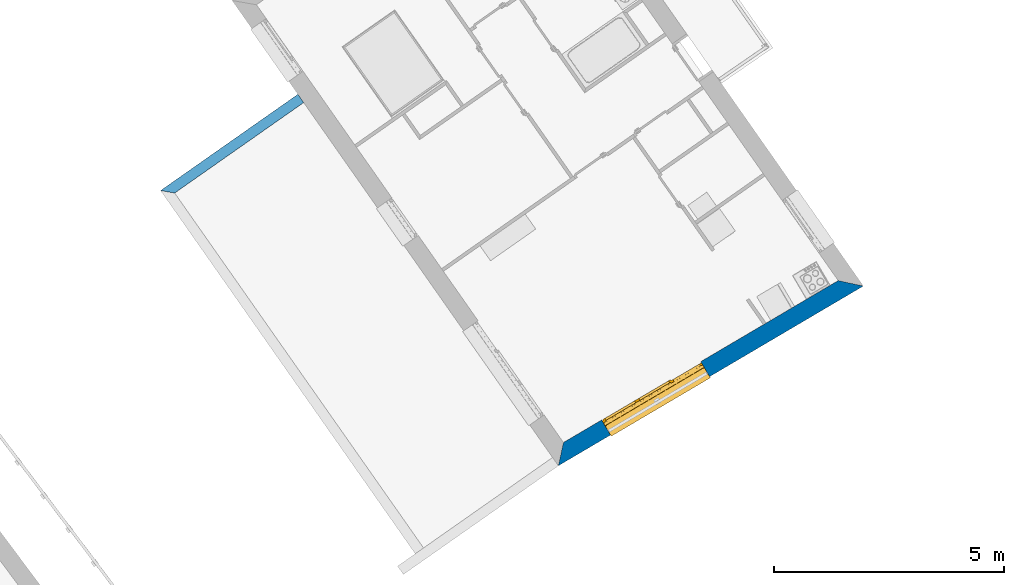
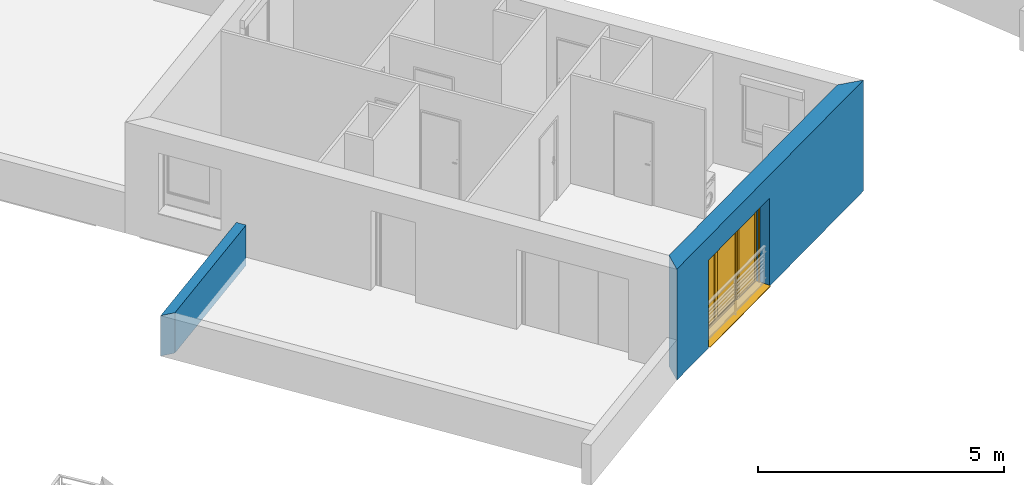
# One storey, part 24 of 121: 2 walls, 1 window, 1 opening.
"""IFC2X3 building model written with IfcOpenShell, lengths in metres."""

from ifc_helpers import new_model, entity, si_unit, converted_unit, derived_unit, money_unit, direction, frame, origin_with_axes, place, context, subcontext, project, spatial, polyline, outline, extrude, open_shell, faceted_brep, surface_model, source, transform, mapped, material, layer, layer_set, layer_usage, type_object, element, fill, save


model = new_model("IFC2X3")

# Units and contexts
model_context = context("Model", 3, precision=1e-05, world=origin_with_axes(), true_north=direction((0.0, 1.0)))
body_context = subcontext(model_context, "Body", "Model", "MODEL_VIEW")
ifc_project = project(units=[si_unit("LENGTHUNIT", "METRE"), si_unit("AREAUNIT", "SQUARE_METRE"), si_unit("VOLUMEUNIT", "CUBIC_METRE"), converted_unit("PLANEANGLEUNIT", "DEGREE", entity("IfcPlaneAngleMeasure", 0.0174532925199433), si_unit("PLANEANGLEUNIT", "RADIAN"), dimensions=[0, 0, 0, 0, 0, 0, 0]), money_unit("CHF"), converted_unit("TIMEUNIT", "Year", entity("IfcTimeMeasure", 31557600.0), si_unit("TIMEUNIT", "SECOND"), dimensions=[0, 0, 1, 0, 0, 0, 0]), si_unit("MASSUNIT", "GRAM", prefix="KILO"), si_unit("THERMODYNAMICTEMPERATUREUNIT", "DEGREE_CELSIUS"), si_unit("LUMINOUSINTENSITYUNIT", "LUMEN"), si_unit("ENERGYUNIT", "JOULE", prefix="MEGA"), derived_unit("THERMALCONDUCTANCEUNIT", [(si_unit("POWERUNIT", "WATT"), 1), (si_unit("LENGTHUNIT", "METRE"), -1), (si_unit("THERMODYNAMICTEMPERATUREUNIT", "KELVIN"), -1)]), derived_unit("SPECIFICHEATCAPACITYUNIT", [(si_unit("ENERGYUNIT", "JOULE"), 1), (si_unit("MASSUNIT", "GRAM", prefix="KILO"), -1), (si_unit("THERMODYNAMICTEMPERATUREUNIT", "KELVIN"), -1)]), derived_unit("MASSDENSITYUNIT", [(si_unit("MASSUNIT", "GRAM", prefix="KILO"), 1), (si_unit("VOLUMEUNIT", "CUBIC_METRE"), -1)])], contexts=[model_context])

# Site, building, storey
site_placement = place(None, origin_with_axes())
site = spatial("IfcSite", under=ifc_project, at=site_placement, Name="Site", CompositionType="ELEMENT")
building_placement = place(site_placement, origin_with_axes())
building = spatial("IfcBuilding", under=site, at=building_placement, Name="Bâtiment", CompositionType="ELEMENT")
storey_placement = place(building_placement, frame((0.0, 0.0, 2.75), z_axis=(0.0, 0.0, 1.0), x_axis=(1.0, 0.0, 0.0)))
storey = spatial("IfcBuildingStorey", under=building, at=storey_placement, Name="Etage 1", CompositionType="ELEMENT", Elevation=2.75)

# Wall, opening, window
ifc_material_1 = material(Name="Parpaing 312445824")
ifc_layer_1 = layer(ifc_material_1, 0.22, ventilated="UNKNOWN")
ifc_material_2 = material(Name="Isolant styromousse 301821074")
ifc_layer_2 = layer(ifc_material_2, 0.16, ventilated="UNKNOWN")
ifc_layer_set_1 = layer_set([ifc_layer_1, ifc_layer_2], Name="isol int 22+16 0836643197")
ifc_layer_usage_1 = layer_usage(ifc_layer_set_1, "AXIS2", "NEGATIVE", 0.0)
wall_type_1 = type_object("IfcWallType", Name="isol int 22+16 0836643197 380", PredefinedType="NOTDEFINED")
wall_1_placement = place(storey_placement, frame((9563.08341973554, -1070.185282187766, 57.7), z_axis=(0.0, 0.0, 1.0), x_axis=(-0.8615849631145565, -0.5076133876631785, 0.0)))
wall_1 = element("IfcWallStandardCase", 1, at=wall_1_placement, inside=storey, type_object=wall_type_1, material=ifc_layer_usage_1, Name="Mur-113", context=body_context, shape_type="SweptSolid", body=[
    extrude(outline(polyline([(0.4113396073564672, -0.3799999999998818), (7.342963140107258, -0.3799999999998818), (7.694011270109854, 0.0), (0.0, 0.0), (0.4113396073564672, -0.3799999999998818)])), origin_with_axes(), (0.0, 0.0, 1.0), 2.75),
])
opening_placement = place(wall_1_placement, frame((5.129340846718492, 0.0, 0.0), z_axis=(0.0, 0.0, 1.0), x_axis=(1.0, 0.0, 0.0)))
opening = element("IfcOpeningElement", 2, at=opening_placement, cuts=wall_1, Name="Fen-045", context=body_context, shape_type="Brep", body=[
    faceted_brep([(-1.249999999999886, -0.2999999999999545, 2.18), (-1.249999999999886, -0.2200000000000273, 2.18), (-1.249999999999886, 3.365991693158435, 2.18), (-1.249999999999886, 3.365991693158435, 0.0), (-1.249999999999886, -0.2999999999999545, 0.0), (-1.249999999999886, -0.4800000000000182, 2.18), (-1.249999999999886, -0.4800000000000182, 2.380000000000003), (-1.249999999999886, -0.2200000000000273, 2.380000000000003), (1.250000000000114, -0.2200000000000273, 2.18), (1.250000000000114, 3.365991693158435, 2.18), (1.250000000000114, 3.365991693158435, 0.0), (1.25, -0.2999999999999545, 0.0), (1.250000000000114, -3.745991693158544, 0.0), (-1.249999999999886, -3.745991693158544, 0.0), (-1.249999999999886, -3.745991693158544, 2.18), (1.250000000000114, -0.4800000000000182, 2.18), (1.250000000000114, -0.4800000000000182, 2.380000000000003), (1.250000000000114, -0.2200000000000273, 2.380000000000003), (1.25, -0.2999999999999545, 2.18), (1.250000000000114, -3.745991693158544, 2.18)], [[[0, 1, 2, 3, 4]], [[1, 0, 5, 6, 7]], [[1, 8, 9, 2]], [[9, 10, 3, 2]], [[4, 3, 10, 11, 12, 13]], [[5, 0, 4, 13, 14]], [[5, 15, 16, 6]], [[7, 6, 16, 17]], [[8, 1, 7, 17]], [[8, 18, 11, 10, 9]], [[18, 15, 19, 12, 11]], [[14, 13, 12, 19]], [[15, 5, 14, 19]], [[18, 8, 17, 16, 15]]]),
])
window_style = type_object("IfcWindowStyle", Name="Fenêtre variable 27", ConstructionType="NOTDEFINED", OperationType="TRIPLE_PANEL_VERTICAL", ParameterTakesPrecedence=False, Sizeable=False)
shared_shape = source(origin_with_axes(), body_context, "Body", "SurfaceModel", [
    surface_model("IfcShellBasedSurfaceModel", [(-1.25, -0.05100000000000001, 0.05), (-1.25, -0.05100000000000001, 0.04), (1.25, -0.05100000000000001, 0.04000000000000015), (1.25, -0.05100000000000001, 0.05000000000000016), (-1.25, -0.3799999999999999, 0.02899999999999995), (1.25, -0.3799999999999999, 0.02900000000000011), (-1.25, -0.3799999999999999, 0.008999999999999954), (1.25, -0.3799999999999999, 0.009000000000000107), (-1.25, -0.3699999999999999, 0.01899999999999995), (1.25, -0.3699999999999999, 0.01900000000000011)], [open_shell([[[0, 1, 2, 3]], [[1, 4, 5, 2]], [[4, 6, 7, 5]], [[6, 8, 9, 7]]])]),
    faceted_brep([(-1.25, -0.1300000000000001, 2.38), (-1.247, -0.1300000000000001, 2.38), (-1.247, 0.1299999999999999, 2.38), (-1.25, 0.1299999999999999, 2.38), (-1.25, -0.1300000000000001, 2.18), (-1.247, -0.1300000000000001, 2.18), (-1.247, 0.1299999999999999, 2.18), (-1.25, 0.1299999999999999, 2.18)], [[[0, 1, 2, 3]], [[4, 5, 1, 0]], [[1, 5, 6, 2]], [[3, 2, 6, 7]], [[0, 3, 7, 4]], [[7, 6, 5, 4]]]),
    faceted_brep([(1.247, -0.1299999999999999, 2.38), (1.25, -0.1299999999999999, 2.38), (1.25, 0.1300000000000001, 2.38), (1.247, 0.1300000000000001, 2.38), (1.247, -0.1299999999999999, 2.18), (1.25, -0.1299999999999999, 2.18), (1.25, 0.1300000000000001, 2.18), (1.247, 0.1300000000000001, 2.18)], [[[0, 1, 2, 3]], [[4, 5, 1, 0]], [[1, 5, 6, 2]], [[3, 2, 6, 7]], [[0, 3, 7, 4]], [[7, 6, 5, 4]]]),
    faceted_brep([(-1.247, -0.1300000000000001, 2.18), (1.247, -0.1299999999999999, 2.18), (1.247, -0.1299999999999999, 2.38), (-1.247, -0.1300000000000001, 2.38), (-1.247, -0.1270000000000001, 2.18), (1.247, -0.1269999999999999, 2.18), (1.247, -0.1269999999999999, 2.377), (1.247, 0.1270000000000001, 2.377), (1.247, 0.1270000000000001, 2.183), (1.247, -0.1079999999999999, 2.183), (1.247, -0.1079999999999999, 2.18), (1.247, 0.1300000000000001, 2.18), (1.247, 0.1300000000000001, 2.38), (-1.247, 0.1299999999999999, 2.38), (-1.247, 0.1299999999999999, 2.18), (-1.247, -0.1080000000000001, 2.18), (-1.247, -0.1080000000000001, 2.183), (-1.247, 0.1269999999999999, 2.183), (-1.247, 0.1269999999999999, 2.377), (-1.247, -0.1270000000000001, 2.377)], [[[0, 1, 2, 3]], [[4, 5, 1, 0]], [[1, 5, 6, 7, 8, 9, 10, 11, 12, 2]], [[3, 2, 12, 13]], [[0, 3, 13, 14, 15, 16, 17, 18, 19, 4]], [[19, 6, 5, 4]], [[18, 7, 6, 19]], [[17, 8, 7, 18]], [[16, 9, 8, 17]], [[15, 10, 9, 16]], [[14, 11, 10, 15]], [[13, 12, 11, 14]]]),
    faceted_brep([(-1.244, -0.08075423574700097, 2.265760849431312), (-1.244, -0.08200000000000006, 2.28), (-1.244, -0.08075423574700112, 2.294239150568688), (-1.244, -0.07705479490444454, 2.308045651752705), (-1.244, -0.07101408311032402, 2.321), (-1.244, -0.06281564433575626, 2.332708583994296), (-1.244, -0.05270858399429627, 2.342815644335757), (-1.244, -0.04100000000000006, 2.351014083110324), (-1.244, -0.0280456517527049, 2.357054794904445), (-1.244, -0.01423915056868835, 2.360754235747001), (-1.244, 0.0, 2.362), (-1.244, 0.01423915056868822, 2.360754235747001), (-1.244, 0.02804565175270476, 2.357054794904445), (-1.244, 0.04099999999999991, 2.351014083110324), (-1.244, 0.05270858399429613, 2.342815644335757), (-1.244, 0.0628156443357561, 2.332708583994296), (-1.244, 0.07101408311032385, 2.321), (-1.244, 0.07705479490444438, 2.308045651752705), (-1.244, 0.08075423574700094, 2.294239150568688), (-1.244, 0.08199999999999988, 2.28), (-1.244, 0.08075423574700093, 2.265760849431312), (-1.244, 0.07705479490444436, 2.251954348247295), (-1.244, 0.07101408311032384, 2.239), (-1.244, 0.06281564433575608, 2.227291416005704), (-1.244, 0.05270858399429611, 2.217184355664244), (-1.244, 0.0409999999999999, 2.208985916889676), (-1.244, 0.02804565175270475, 2.202945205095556), (-1.244, 0.01423915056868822, 2.199245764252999), (-1.244, 0.0, 2.198), (-1.244, -0.01423915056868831, 2.199245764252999), (-1.244, -0.02804565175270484, 2.202945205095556), (-1.244, -0.04099999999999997, 2.208985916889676), (-1.244, -0.05270858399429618, 2.217184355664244), (-1.244, -0.06281564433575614, 2.227291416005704), (-1.244, -0.07101408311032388, 2.239), (-1.244, -0.07705479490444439, 2.251954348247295), (1.244, -0.08075423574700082, 2.265760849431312), (1.244, -0.0819999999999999, 2.28), (1.244, -0.08075423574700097, 2.294239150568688), (1.244, -0.07705479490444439, 2.308045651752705), (1.244, -0.07101408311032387, 2.321), (1.244, -0.06281564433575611, 2.332708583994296), (1.244, -0.05270858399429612, 2.342815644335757), (1.244, -0.0409999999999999, 2.351014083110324), (1.244, -0.02804565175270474, 2.357054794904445), (1.244, -0.0142391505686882, 2.360754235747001), (1.244, 0.0, 2.362), (1.244, 0.01423915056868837, 2.360754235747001), (1.244, 0.02804565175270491, 2.357054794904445), (1.244, 0.04100000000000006, 2.351014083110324), (1.244, 0.05270858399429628, 2.342815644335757), (1.244, 0.06281564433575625, 2.332708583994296), (1.244, 0.071014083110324, 2.321), (1.244, 0.07705479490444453, 2.308045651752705), (1.244, 0.0807542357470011, 2.294239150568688), (1.244, 0.08200000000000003, 2.28), (1.244, 0.08075423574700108, 2.265760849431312), (1.244, 0.07705479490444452, 2.251954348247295), (1.244, 0.07101408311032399, 2.239), (1.244, 0.06281564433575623, 2.227291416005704), (1.244, 0.05270858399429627, 2.217184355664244), (1.244, 0.04100000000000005, 2.208985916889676), (1.244, 0.02804565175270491, 2.202945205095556), (1.244, 0.01423915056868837, 2.199245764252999), (1.244, 0.0, 2.198), (1.244, -0.01423915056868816, 2.199245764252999), (1.244, -0.02804565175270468, 2.202945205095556), (1.244, -0.04099999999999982, 2.208985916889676), (1.244, -0.05270858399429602, 2.217184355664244), (1.244, -0.06281564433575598, 2.227291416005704), (1.244, -0.07101408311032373, 2.239), (1.244, -0.07705479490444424, 2.251954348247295)], [[[0, 1, 2, 3, 4, 5, 6, 7, 8, 9, 10, 11, 12, 13, 14, 15, 16, 17, 18, 19, 20, 21, 22, 23, 24, 25, 26, 27, 28, 29, 30, 31, 32, 33, 34, 35]], [[0, 36, 37, 1]], [[1, 37, 38, 2]], [[2, 38, 39, 3]], [[3, 39, 40, 4]], [[4, 40, 41, 5]], [[5, 41, 42, 6]], [[6, 42, 43, 7]], [[7, 43, 44, 8]], [[8, 44, 45, 9]], [[9, 45, 46, 10]], [[10, 46, 47, 11]], [[11, 47, 48, 12]], [[12, 48, 49, 13]], [[13, 49, 50, 14]], [[14, 50, 51, 15]], [[15, 51, 52, 16]], [[16, 52, 53, 17]], [[17, 53, 54, 18]], [[18, 54, 55, 19]], [[19, 55, 56, 20]], [[20, 56, 57, 21]], [[21, 57, 58, 22]], [[22, 58, 59, 23]], [[23, 59, 60, 24]], [[24, 60, 61, 25]], [[25, 61, 62, 26]], [[26, 62, 63, 27]], [[27, 63, 64, 28]], [[28, 64, 65, 29]], [[29, 65, 66, 30]], [[30, 66, 67, 31]], [[31, 67, 68, 32]], [[32, 68, 69, 33]], [[33, 69, 70, 34]], [[34, 70, 71, 35]], [[35, 71, 36, 0]], [[36, 71, 70, 69, 68, 67, 66, 65, 64, 63, 62, 61, 60, 59, 58, 57, 56, 55, 54, 53, 52, 51, 50, 49, 48, 47, 46, 45, 44, 43, 42, 41, 40, 39, 38, 37]]]),
    faceted_brep([(1.25, -0.105, 0.03), (1.25, -0.1049999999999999, 2.18), (1.25, -0.1299999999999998, 2.18), (1.25, -0.13, 0.03), (1.225, -0.105, 0.03), (1.225, -0.1049999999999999, 2.18), (1.225, -0.1079999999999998, 2.18), (1.247, -0.1079999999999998, 2.18), (1.247, -0.1269999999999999, 2.18), (1.225, -0.1269999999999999, 2.18), (1.225, -0.1299999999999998, 2.18), (1.225, -0.13, 0.03), (1.225, -0.127, 0.03), (1.247, -0.127, 0.03), (1.247, -0.108, 0.03), (1.225, -0.108, 0.03)], [[[0, 1, 2, 3]], [[4, 5, 1, 0]], [[1, 5, 6, 7, 8, 9, 10, 2]], [[3, 2, 10, 11]], [[0, 3, 11, 12, 13, 14, 15, 4]], [[15, 6, 5, 4]], [[14, 7, 6, 15]], [[13, 8, 7, 14]], [[12, 9, 8, 13]], [[11, 10, 9, 12]]]),
    faceted_brep([(-1.25, -0.105, 0.03), (-1.25, -0.13, 0.03), (-1.25, -0.1299999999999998, 2.18), (-1.25, -0.1049999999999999, 2.18), (-1.225, -0.105, 0.03), (-1.225, -0.108, 0.03), (-1.247, -0.108, 0.03), (-1.247, -0.127, 0.03), (-1.225, -0.127, 0.03), (-1.225, -0.13, 0.03), (-1.225, -0.1299999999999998, 2.18), (-1.225, -0.1269999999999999, 2.18), (-1.247, -0.1269999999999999, 2.18), (-1.247, -0.1079999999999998, 2.18), (-1.225, -0.1079999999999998, 2.18), (-1.225, -0.1049999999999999, 2.18)], [[[0, 1, 2, 3]], [[0, 4, 5, 6, 7, 8, 9, 1]], [[1, 9, 10, 2]], [[3, 2, 10, 11, 12, 13, 14, 15]], [[4, 0, 3, 15]], [[5, 4, 15, 14]], [[6, 5, 14, 13]], [[7, 6, 13, 12]], [[8, 7, 12, 11]], [[9, 8, 11, 10]]]),
    surface_model("IfcShellBasedSurfaceModel", [(-1.247, -0.115, 2.28), (1.247, -0.1149999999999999, 2.28), (1.247, -0.1199999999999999, 2.28), (-1.247, -0.1200000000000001, 2.28), (-1.247, -0.115, 2.28), (-1.247, -0.1200000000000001, 2.28), (1.247, -0.1199999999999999, 2.28), (1.247, -0.1149999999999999, 2.28)], [open_shell([[[0, 1, 2, 3]], [[4, 5, 6, 7]]])]),
    faceted_brep([(-1.247, -0.115, 2.28), (1.247, -0.1149999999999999, 2.28), (1.247, -0.1166666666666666, 2.263333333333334), (-1.247, -0.1166666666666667, 2.263333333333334), (-1.247, -0.1200000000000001, 2.28), (1.247, -0.1199999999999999, 2.28), (1.247, -0.1216666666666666, 2.263333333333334), (1.247, -0.1216666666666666, 2.246666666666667), (1.247, -0.1199999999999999, 2.23), (1.247, -0.1149999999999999, 2.23), (1.247, -0.1166666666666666, 2.246666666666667), (-1.247, -0.1166666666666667, 2.246666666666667), (-1.247, -0.115, 2.23), (-1.247, -0.1200000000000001, 2.23), (-1.247, -0.1216666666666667, 2.246666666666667), (-1.247, -0.1216666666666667, 2.263333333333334)], [[[0, 1, 2, 3]], [[4, 5, 1, 0]], [[1, 5, 6, 7, 8, 9, 10, 2]], [[3, 2, 10, 11]], [[0, 3, 11, 12, 13, 14, 15, 4]], [[15, 6, 5, 4]], [[14, 7, 6, 15]], [[13, 8, 7, 14]], [[12, 9, 8, 13]], [[11, 10, 9, 12]]]),
    faceted_brep([(-1.247, -0.115, 2.23), (1.247, -0.1149999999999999, 2.23), (1.247, -0.1166666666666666, 2.213333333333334), (-1.247, -0.1166666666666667, 2.213333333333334), (-1.247, -0.1200000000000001, 2.23), (1.247, -0.1199999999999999, 2.23), (1.247, -0.1216666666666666, 2.213333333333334), (1.247, -0.1216666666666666, 2.196666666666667), (1.247, -0.1199999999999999, 2.180000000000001), (1.247, -0.1149999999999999, 2.180000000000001), (1.247, -0.1166666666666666, 2.196666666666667), (-1.247, -0.1166666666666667, 2.196666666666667), (-1.247, -0.115, 2.180000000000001), (-1.247, -0.1200000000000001, 2.180000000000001), (-1.247, -0.1216666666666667, 2.196666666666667), (-1.247, -0.1216666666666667, 2.213333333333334)], [[[0, 1, 2, 3]], [[4, 5, 1, 0]], [[1, 5, 6, 7, 8, 9, 10, 2]], [[3, 2, 10, 11]], [[0, 3, 11, 12, 13, 14, 15, 4]], [[15, 6, 5, 4]], [[14, 7, 6, 15]], [[13, 8, 7, 14]], [[12, 9, 8, 13]], [[11, 10, 9, 12]]]),
    faceted_brep([(-1.225, 0.0, 2.13), (-1.25, 0.0, 2.13), (-1.25, -0.05000000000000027, 2.13), (-1.2, -0.05000000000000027, 2.13), (-1.2, -0.02500000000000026, 2.13), (-1.225, -0.02500000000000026, 2.13), (-1.225, 0.0, 0.05000000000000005), (-1.25, 0.0, 0.05000000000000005), (-1.25, -0.05000000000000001, 0.05000000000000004), (-1.2, -0.05000000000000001, 0.05000000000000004), (-1.2, -0.02500000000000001, 0.05000000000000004), (-1.225, -0.02500000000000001, 0.05000000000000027)], [[[0, 1, 2, 3, 4, 5]], [[6, 7, 1, 0]], [[1, 7, 8, 2]], [[2, 8, 9, 3]], [[4, 3, 9, 10]], [[10, 11, 5, 4]], [[5, 11, 6, 0]], [[11, 10, 9, 8, 7, 6]]]),
    faceted_brep([(0.4600000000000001, -0.02500000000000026, 2.13), (0.4600000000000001, -0.05000000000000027, 2.13), (0.5300000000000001, -0.05000000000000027, 2.13), (0.5300000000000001, 0.0, 2.13), (0.4850000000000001, 0.0, 2.13), (0.4850000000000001, -0.02500000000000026, 2.13), (0.4600000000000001, -0.02500000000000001, 0.05000000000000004), (0.4600000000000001, -0.05000000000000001, 0.05000000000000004), (0.5300000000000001, -0.05000000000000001, 0.05000000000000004), (0.5300000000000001, 0.0, 0.05000000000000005), (0.4850000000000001, 0.0, 0.05000000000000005), (0.4850000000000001, -0.02500000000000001, 0.05000000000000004)], [[[0, 1, 2, 3, 4, 5]], [[6, 7, 1, 0]], [[8, 2, 1, 7]], [[9, 3, 2, 8]], [[4, 3, 9, 10]], [[10, 11, 5, 4]], [[5, 11, 6, 0]], [[11, 10, 9, 8, 7, 6]]]),
    faceted_brep([(0.4600000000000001, -0.02500000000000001, 0.05000000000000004), (0.4600000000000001, -0.05000000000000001, 0.05000000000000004), (0.5300000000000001, -0.05000000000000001, 0.05000000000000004), (0.5300000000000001, 0.0, 0.05000000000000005), (0.4850000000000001, 0.0, 0.05000000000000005), (0.4850000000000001, -0.02500000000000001, 0.05000000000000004), (-1.2, -0.02500000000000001, 0.05000000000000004), (-1.2, -0.05000000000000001, 0.05000000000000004), (-1.25, -0.05000000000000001, 0.05000000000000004), (-1.25, -0.05, 0.0), (1.25, -0.05, 0.0), (1.25, -0.05000000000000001, 0.05000000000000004), (1.2, -0.05000000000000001, 0.05000000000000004), (1.2, 0.0, 0.05000000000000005), (-1.225, 0.0, 0.02499999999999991), (0.4850000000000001, 0.0, 0.02499999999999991), (1.25, 0.0, 0.05000000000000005), (1.25, 0.0, 0.0), (-1.25, 0.0, 0.0), (-1.25, 0.0, 0.05000000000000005), (-1.225, 0.0, 0.05000000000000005), (0.4850000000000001, -0.025, 0.02499999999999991), (-1.225, -0.025, 0.02499999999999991), (-1.225, -0.02500000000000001, 0.05000000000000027)], [[[0, 1, 2, 3, 4, 5]], [[6, 7, 1, 0]], [[8, 9, 10, 11, 12, 2, 1, 7]], [[13, 3, 2, 12]], [[14, 15, 4, 3, 13, 16, 17, 18, 19, 20]], [[15, 21, 5, 4]], [[5, 21, 22, 23, 6, 0]], [[23, 20, 19, 8, 7, 6]], [[19, 18, 9, 8]], [[18, 17, 10, 9]], [[17, 16, 11, 10]], [[16, 13, 12, 11]], [[14, 22, 21, 15]], [[23, 22, 14, 20]]]),
    faceted_brep([(-1.225, 0.0, 2.13), (-1.25, 0.0, 2.13), (-1.25, 0.0, 2.18), (1.25, 0.0, 2.18), (1.25, 0.0, 2.13), (1.2, 0.0, 2.13), (0.5300000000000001, 0.0, 2.13), (0.4850000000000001, 0.0, 2.13), (0.4850000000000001, 0.0, 2.155), (-1.225, 0.0, 2.155), (-1.225, -0.02500000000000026, 2.13), (-1.2, -0.02500000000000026, 2.13), (-1.2, -0.05000000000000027, 2.13), (-1.25, -0.05000000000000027, 2.13), (-1.25, -0.05000000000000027, 2.18), (1.25, -0.05000000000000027, 2.18), (1.25, -0.05000000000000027, 2.13), (1.2, -0.05000000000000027, 2.13), (0.5300000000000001, -0.05000000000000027, 2.13), (0.4850000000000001, -0.02500000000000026, 2.13), (0.4600000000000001, -0.05000000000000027, 2.13), (0.4600000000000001, -0.02500000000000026, 2.13), (0.4850000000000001, -0.02500000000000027, 2.155), (-1.225, -0.02500000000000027, 2.155)], [[[0, 1, 2, 3, 4, 5, 6, 7, 8, 9]], [[10, 11, 12, 13, 1, 0]], [[2, 1, 13, 14]], [[3, 2, 14, 15]], [[4, 3, 15, 16]], [[5, 4, 16, 17]], [[6, 5, 17, 18]], [[19, 7, 6, 18, 20, 21]], [[7, 19, 22, 8]], [[8, 22, 23, 9]], [[9, 23, 10, 0]], [[21, 11, 10, 23, 22, 19]], [[21, 20, 12, 11]], [[18, 17, 16, 15, 14, 13, 12, 20]]]),
    faceted_brep([(1.2, -0.05000000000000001, 0.05), (1.2, 0.0, 0.05000000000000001), (1.25, 0.0, 0.05000000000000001), (1.25, -0.05000000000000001, 0.05), (1.2, -0.05000000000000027, 2.13), (1.2, 0.0, 2.13), (1.25, 0.0, 2.13), (1.25, -0.05000000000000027, 2.13)], [[[0, 1, 2, 3]], [[4, 5, 1, 0]], [[1, 5, 6, 2]], [[3, 2, 6, 7]], [[0, 3, 7, 4]], [[7, 6, 5, 4]]]),
    faceted_brep([(-0.3199999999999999, -0.02500000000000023, 2.105), (-0.3199999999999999, 0.02499999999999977, 2.105), (-0.3699999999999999, 0.02499999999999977, 2.105), (-0.3699999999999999, -0.02500000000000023, 2.105), (-0.3199999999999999, -0.02499999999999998, 0.07500000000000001), (-0.3199999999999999, 0.02500000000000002, 0.07500000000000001), (-0.3699999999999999, 0.02500000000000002, 0.07500000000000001), (-0.3699999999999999, -0.02499999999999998, 0.07500000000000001)], [[[0, 1, 2, 3]], [[4, 5, 1, 0]], [[1, 5, 6, 2]], [[3, 2, 6, 7]], [[0, 3, 7, 4]], [[7, 6, 5, 4]]]),
    faceted_brep([(0.4350000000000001, -0.02500000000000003, 0.07500000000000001), (0.4350000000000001, 0.02499999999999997, 0.07500000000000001), (0.4850000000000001, 0.02499999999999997, 0.07500000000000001), (0.4850000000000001, -0.02500000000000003, 0.07500000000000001), (0.4350000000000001, -0.02500000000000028, 2.105), (0.4350000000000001, 0.02499999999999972, 2.105), (0.4850000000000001, 0.02499999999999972, 2.105), (0.4850000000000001, -0.02500000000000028, 2.105)], [[[0, 1, 2, 3]], [[4, 5, 1, 0]], [[1, 5, 6, 2]], [[3, 2, 6, 7]], [[0, 3, 7, 4]], [[7, 6, 5, 4]]]),
    faceted_brep([(0.4850000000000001, -0.02500000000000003, 0.025), (0.4850000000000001, 0.02499999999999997, 0.02500000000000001), (0.4850000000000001, 0.02499999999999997, 0.07500000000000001), (0.4850000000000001, -0.02500000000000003, 0.07500000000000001), (-0.3699999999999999, -0.02499999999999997, 0.025), (-0.3699999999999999, 0.02500000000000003, 0.02500000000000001), (-0.3699999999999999, 0.02500000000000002, 0.07500000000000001), (-0.3199999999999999, 0.02500000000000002, 0.07500000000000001), (0.4350000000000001, 0.02499999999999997, 0.07500000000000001), (0.4350000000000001, -0.02500000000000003, 0.07500000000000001), (-0.3199999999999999, -0.02499999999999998, 0.07500000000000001), (-0.3699999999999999, -0.02499999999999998, 0.07500000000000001)], [[[0, 1, 2, 3]], [[4, 5, 1, 0]], [[1, 5, 6, 7, 8, 2]], [[3, 2, 8, 9]], [[0, 3, 9, 10, 11, 4]], [[11, 6, 5, 4]], [[10, 7, 6, 11]], [[9, 8, 7, 10]]]),
    faceted_brep([(-0.3699999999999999, -0.02500000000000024, 2.155), (-0.3699999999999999, 0.02499999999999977, 2.155), (-0.3699999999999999, 0.02499999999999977, 2.105), (-0.3699999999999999, -0.02500000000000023, 2.105), (0.4850000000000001, -0.02500000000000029, 2.155), (0.4850000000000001, 0.02499999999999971, 2.155), (0.4850000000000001, 0.02499999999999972, 2.105), (0.4350000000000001, 0.02499999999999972, 2.105), (-0.3199999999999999, 0.02499999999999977, 2.105), (-0.3199999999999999, -0.02500000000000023, 2.105), (0.4350000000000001, -0.02500000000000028, 2.105), (0.4850000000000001, -0.02500000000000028, 2.105)], [[[0, 1, 2, 3]], [[4, 5, 1, 0]], [[1, 5, 6, 7, 8, 2]], [[3, 2, 8, 9]], [[0, 3, 9, 10, 11, 4]], [[11, 6, 5, 4]], [[10, 7, 6, 11]], [[9, 8, 7, 10]]]),
    surface_model("IfcShellBasedSurfaceModel", [(-0.3199999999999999, -0.01000000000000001, 0.07500000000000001), (0.4350000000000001, -0.01000000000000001, 0.07500000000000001), (0.4350000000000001, -0.01000000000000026, 2.105), (-0.3199999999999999, -0.01000000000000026, 2.105)], [open_shell([[[0, 1, 2, 3]]])]),
    surface_model("IfcShellBasedSurfaceModel", [(-0.3199999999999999, 0.009999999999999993, 0.07500000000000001), (-0.3199999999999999, 0.009999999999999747, 2.105), (0.4350000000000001, 0.009999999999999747, 2.105), (0.4350000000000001, 0.009999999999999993, 0.07500000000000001)], [open_shell([[[0, 1, 2, 3]]])]),
    faceted_brep([(-1.175, -0.02500000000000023, 2.105), (-1.175, 0.02499999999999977, 2.105), (-1.225, 0.02499999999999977, 2.105), (-1.225, -0.02500000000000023, 2.105), (-1.175, -0.02499999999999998, 0.07500000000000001), (-1.175, 0.02500000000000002, 0.07500000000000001), (-1.225, 0.02500000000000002, 0.07500000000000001), (-1.225, -0.02499999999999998, 0.07500000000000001)], [[[0, 1, 2, 3]], [[4, 5, 1, 0]], [[1, 5, 6, 2]], [[3, 2, 6, 7]], [[0, 3, 7, 4]], [[7, 6, 5, 4]]]),
    faceted_brep([(-0.4199999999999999, -0.02500000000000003, 0.07500000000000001), (-0.4199999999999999, 0.02499999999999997, 0.07500000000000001), (-0.3699999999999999, 0.02499999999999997, 0.07500000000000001), (-0.3699999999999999, -0.02500000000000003, 0.07500000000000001), (-0.4199999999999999, -0.02500000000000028, 2.105), (-0.4199999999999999, 0.02499999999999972, 2.105), (-0.3699999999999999, 0.02499999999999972, 2.105), (-0.3699999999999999, -0.02500000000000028, 2.105)], [[[0, 1, 2, 3]], [[4, 5, 1, 0]], [[1, 5, 6, 2]], [[3, 2, 6, 7]], [[0, 3, 7, 4]], [[7, 6, 5, 4]]]),
    faceted_brep([(-0.3699999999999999, -0.02500000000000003, 0.025), (-0.3699999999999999, 0.02499999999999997, 0.02500000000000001), (-0.3699999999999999, 0.02499999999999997, 0.07500000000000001), (-0.3699999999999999, -0.02500000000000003, 0.07500000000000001), (-1.225, -0.02499999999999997, 0.025), (-1.225, 0.02500000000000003, 0.02500000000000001), (-1.225, 0.02500000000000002, 0.07500000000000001), (-1.175, 0.02500000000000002, 0.07500000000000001), (-0.4199999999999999, 0.02499999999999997, 0.07500000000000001), (-0.4199999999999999, -0.02500000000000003, 0.07500000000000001), (-1.175, -0.02499999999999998, 0.07500000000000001), (-1.225, -0.02499999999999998, 0.07500000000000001)], [[[0, 1, 2, 3]], [[4, 5, 1, 0]], [[1, 5, 6, 7, 8, 2]], [[3, 2, 8, 9]], [[0, 3, 9, 10, 11, 4]], [[11, 6, 5, 4]], [[10, 7, 6, 11]], [[9, 8, 7, 10]]]),
    faceted_brep([(-1.225, -0.02500000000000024, 2.155), (-1.225, 0.02499999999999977, 2.155), (-1.225, 0.02499999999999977, 2.105), (-1.225, -0.02500000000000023, 2.105), (-0.3699999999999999, -0.02500000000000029, 2.155), (-0.3699999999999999, 0.02499999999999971, 2.155), (-0.3699999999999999, 0.02499999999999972, 2.105), (-0.4199999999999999, 0.02499999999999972, 2.105), (-1.175, 0.02499999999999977, 2.105), (-1.175, -0.02500000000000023, 2.105), (-0.4199999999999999, -0.02500000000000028, 2.105), (-0.3699999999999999, -0.02500000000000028, 2.105)], [[[0, 1, 2, 3]], [[4, 5, 1, 0]], [[1, 5, 6, 7, 8, 2]], [[3, 2, 8, 9]], [[0, 3, 9, 10, 11, 4]], [[11, 6, 5, 4]], [[10, 7, 6, 11]], [[9, 8, 7, 10]]]),
    surface_model("IfcShellBasedSurfaceModel", [(-1.175, -0.01000000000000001, 0.07500000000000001), (-0.4199999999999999, -0.01000000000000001, 0.07500000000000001), (-0.4199999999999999, -0.01000000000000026, 2.105), (-1.175, -0.01000000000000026, 2.105)], [open_shell([[[0, 1, 2, 3]]])]),
    surface_model("IfcShellBasedSurfaceModel", [(-1.175, 0.009999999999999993, 0.07500000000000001), (-1.175, 0.009999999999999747, 2.105), (-0.4199999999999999, 0.009999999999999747, 2.105), (-0.4199999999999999, 0.009999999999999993, 0.07500000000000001)], [open_shell([[[0, 1, 2, 3]]])]),
    surface_model("IfcShellBasedSurfaceModel", [(0.5300000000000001, -0.035, 0.05), (1.2, -0.035, 0.05), (1.2, -0.03500000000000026, 2.13), (0.5300000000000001, -0.03500000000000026, 2.13)], [open_shell([[[0, 1, 2, 3]]])]),
    surface_model("IfcShellBasedSurfaceModel", [(0.5300000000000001, -0.015, 0.05), (0.5300000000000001, -0.01500000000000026, 2.13), (1.2, -0.01500000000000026, 2.13), (1.2, -0.015, 0.05)], [open_shell([[[0, 1, 2, 3]]])]),
])
window_placement = place(opening_placement, frame((1.250000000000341, 0.0, 0.0), z_axis=(0.0, 0.0, 1.0), x_axis=(-1.0, 0.0, 0.0)))
window = element("IfcWindow", 3, at=window_placement, inside=storey, type_object=window_style, Name="Fen-045", OverallHeight=2.18, OverallWidth=2.5, context=body_context, shape_type="MappedRepresentation", body=[
    mapped(shared_shape, transform((1.250000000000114, 0.3500000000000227, 0.0))),
])
fill(opening, window)

# Wall
ifc_material_3 = material(Name="Empty Fill 3000033799")
ifc_layer_3 = layer(ifc_material_3, 0.22, ventilated="UNKNOWN")
ifc_layer_set_2 = layer_set([ifc_layer_3], Name="acrotère 22")
ifc_layer_usage_2 = layer_usage(ifc_layer_set_2, "AXIS2", "POSITIVE", 0.0)
wall_type_2 = type_object("IfcWallType", Name="acrotère 22 220", PredefinedType="NOTDEFINED")
wall_2_placement = place(storey_placement, frame((9550.793347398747, -1066.018324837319, 57.7), z_axis=(0.0, 0.0, 1.0), x_axis=(-0.8187432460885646, -0.5741598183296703, 0.0)))
element("IfcWallStandardCase", 4, at=wall_2_placement, inside=storey, type_object=wall_type_2, material=ifc_layer_usage_2, Name="Mur-105", context=body_context, shape_type="SweptSolid", body=[
    extrude(outline(polyline([(0.0, 0.0), (3.64457403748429, 0.0), (3.424574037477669, 0.2200000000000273), (0.0, 0.2200000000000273), (0.0, 0.0)])), origin_with_axes(), (0.0, 0.0, 1.0), 1.0),
])

save(model, "model.ifc")
